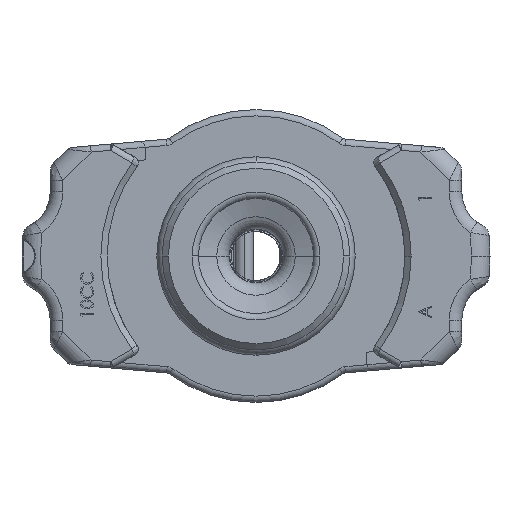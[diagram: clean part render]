
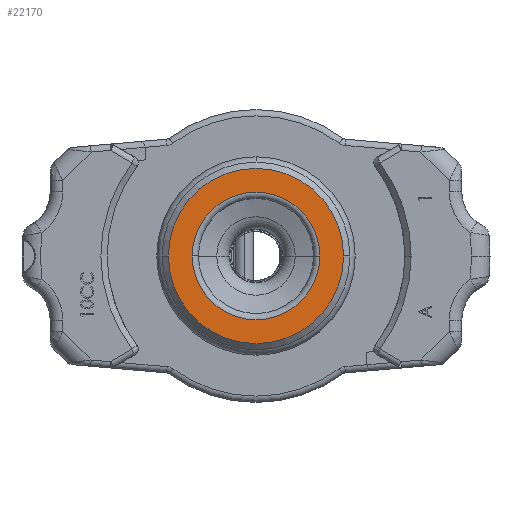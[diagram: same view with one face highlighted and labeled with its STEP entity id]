
A CAD part, front view. The second image highlights one B-rep face of the part: STEP entity #22170.
In plain terms, the highlighted planar face has unit normal (0, -1, 0).
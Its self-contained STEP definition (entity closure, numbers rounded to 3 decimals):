
#325 = EDGE_CURVE ( 'NONE', #27657, #2738, #12169, .T. ) ;
#963 = EDGE_CURVE ( 'NONE', #21014, #3001, #20761, .T. ) ;
#1481 = ORIENTED_EDGE ( 'NONE', *, *, #10090, .T. ) ;
#1667 = ORIENTED_EDGE ( 'NONE', *, *, #325, .T. ) ;
#1688 = PLANE ( 'NONE',  #3626 ) ;
#2738 = VERTEX_POINT ( 'NONE', #22995 ) ;
#3001 = VERTEX_POINT ( 'NONE', #13362 ) ;
#3626 = AXIS2_PLACEMENT_3D ( 'NONE', #15476, #10814, #19970 ) ;
#3627 = DIRECTION ( 'NONE',  ( 1., 0., 0. ) ) ;
#4945 = CARTESIAN_POINT ( 'NONE',  ( -13.6, 0., 6.3 ) ) ;
#6267 = DIRECTION ( 'NONE',  ( 0., -1., 0. ) ) ;
#6336 = FACE_BOUND ( 'NONE', #22653, .T. ) ;
#7533 = DIRECTION ( 'NONE',  ( 0., 1., 0. ) ) ;
#7675 = ORIENTED_EDGE ( 'NONE', *, *, #18354, .T. ) ;
#10090 = EDGE_CURVE ( 'NONE', #3001, #21014, #11060, .T. ) ;
#10814 = DIRECTION ( 'NONE',  ( 0., -1., 0. ) ) ;
#11060 = CIRCLE ( 'NONE', #26470, 7. ) ;
#12169 = CIRCLE ( 'NONE', #19350, 5.1 ) ;
#12674 = ORIENTED_EDGE ( 'NONE', *, *, #963, .T. ) ;
#13362 = CARTESIAN_POINT ( 'NONE',  ( -25.7, 0., 6.3 ) ) ;
#13683 = CIRCLE ( 'NONE', #14689, 5.1 ) ;
#14069 = AXIS2_PLACEMENT_3D ( 'NONE', #17670, #6267, #22153 ) ;
#14689 = AXIS2_PLACEMENT_3D ( 'NONE', #28169, #7533, #19828 ) ;
#14884 = FACE_OUTER_BOUND ( 'NONE', #25785, .T. ) ;
#15476 = CARTESIAN_POINT ( 'NONE',  ( -18.7, 0., -1.2 ) ) ;
#16895 = DIRECTION ( 'NONE',  ( 0., 1., 0. ) ) ;
#17670 = CARTESIAN_POINT ( 'NONE',  ( -18.7, 0., 6.3 ) ) ;
#17913 = CARTESIAN_POINT ( 'NONE',  ( -11.7, 0., 6.3 ) ) ;
#18354 = EDGE_CURVE ( 'NONE', #2738, #27657, #13683, .T. ) ;
#19350 = AXIS2_PLACEMENT_3D ( 'NONE', #23643, #16895, #28502 ) ;
#19824 = DIRECTION ( 'NONE',  ( 0., -1., 0. ) ) ;
#19828 = DIRECTION ( 'NONE',  ( 1., 0., 0. ) ) ;
#19970 = DIRECTION ( 'NONE',  ( 1., 0., 0. ) ) ;
#20761 = CIRCLE ( 'NONE', #14069, 7. ) ;
#21014 = VERTEX_POINT ( 'NONE', #17913 ) ;
#22153 = DIRECTION ( 'NONE',  ( 1., 0., 0. ) ) ;
#22170 = ADVANCED_FACE ( 'NONE', ( #14884, #6336 ), #1688, .T. ) ;
#22653 = EDGE_LOOP ( 'NONE', ( #1667, #7675 ) ) ;
#22995 = CARTESIAN_POINT ( 'NONE',  ( -23.8, 0., 6.3 ) ) ;
#23643 = CARTESIAN_POINT ( 'NONE',  ( -18.7, 0., 6.3 ) ) ;
#24807 = CARTESIAN_POINT ( 'NONE',  ( -18.7, 0., 6.3 ) ) ;
#25785 = EDGE_LOOP ( 'NONE', ( #1481, #12674 ) ) ;
#26470 = AXIS2_PLACEMENT_3D ( 'NONE', #24807, #19824, #3627 ) ;
#27657 = VERTEX_POINT ( 'NONE', #4945 ) ;
#28169 = CARTESIAN_POINT ( 'NONE',  ( -18.7, 0., 6.3 ) ) ;
#28502 = DIRECTION ( 'NONE',  ( 1., 0., 0. ) ) ;
